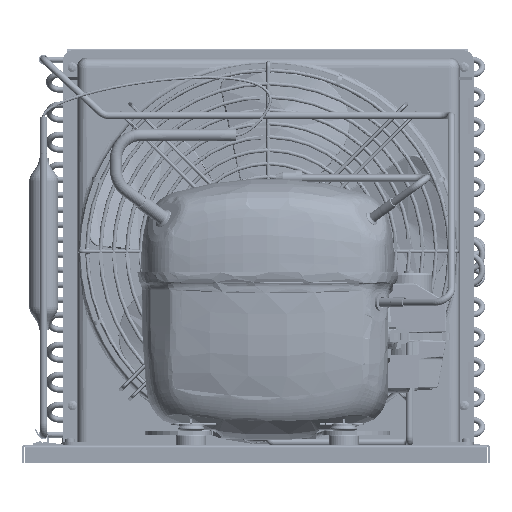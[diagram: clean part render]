
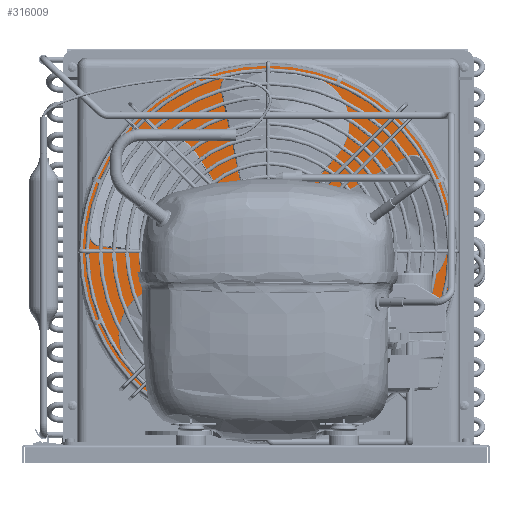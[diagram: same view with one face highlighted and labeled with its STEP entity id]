
A CAD part, front view. The second image highlights one B-rep face of the part: STEP entity #316009.
In plain terms, the highlighted planar face has unit normal (0, -1, 0) as drawn and (-1, 0, 0) by its records, which use the part's own axes.
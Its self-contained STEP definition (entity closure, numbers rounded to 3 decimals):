
#94304=LINE('',#413764,#110137);
#94305=LINE('',#413767,#110138);
#94306=LINE('',#413769,#110139);
#94307=LINE('',#413771,#110140);
#110137=VECTOR('',#355797,1000.);
#110138=VECTOR('',#355798,1000.);
#110139=VECTOR('',#355799,1000.);
#110140=VECTOR('',#355800,1000.);
#128220=ORIENTED_EDGE('',*,*,#202784,.T.);
#128221=ORIENTED_EDGE('',*,*,#202785,.F.);
#128222=ORIENTED_EDGE('',*,*,#202786,.F.);
#128223=ORIENTED_EDGE('',*,*,#202787,.T.);
#202784=EDGE_CURVE('',#240499,#240500,#94304,.T.);
#202785=EDGE_CURVE('',#240501,#240500,#94305,.T.);
#202786=EDGE_CURVE('',#240502,#240501,#94306,.T.);
#202787=EDGE_CURVE('',#240502,#240499,#94307,.T.);
#240499=VERTEX_POINT('',#413765);
#240500=VERTEX_POINT('',#413766);
#240501=VERTEX_POINT('',#413768);
#240502=VERTEX_POINT('',#413770);
#273672=EDGE_LOOP('',(#128220,#128221,#128222,#128223));
#291606=FACE_BOUND('',#273672,.T.);
#308098=PLANE('',#332164);
#316009=ADVANCED_FACE('',(#291606),#308098,.F.);
#332164=AXIS2_PLACEMENT_3D('',#413763,#355795,#355796);
#355795=DIRECTION('',(1.,0.,0.));
#355796=DIRECTION('',(0.,0.,-1.));
#355797=DIRECTION('',(0.,0.,-1.));
#355798=DIRECTION('',(0.,1.,0.));
#355799=DIRECTION('',(0.,0.,-1.));
#355800=DIRECTION('',(0.,1.,0.));
#413763=CARTESIAN_POINT('',(-25.,-157.5,162.5));
#413764=CARTESIAN_POINT('',(-25.,157.5,162.5));
#413765=CARTESIAN_POINT('',(-25.,157.5,162.5));
#413766=CARTESIAN_POINT('',(-25.,157.5,-162.5));
#413767=CARTESIAN_POINT('',(-25.,-157.5,-162.5));
#413768=CARTESIAN_POINT('',(-25.,-157.5,-162.5));
#413769=CARTESIAN_POINT('',(-25.,-157.5,162.5));
#413770=CARTESIAN_POINT('',(-25.,-157.5,162.5));
#413771=CARTESIAN_POINT('',(-25.,-157.5,162.5));
